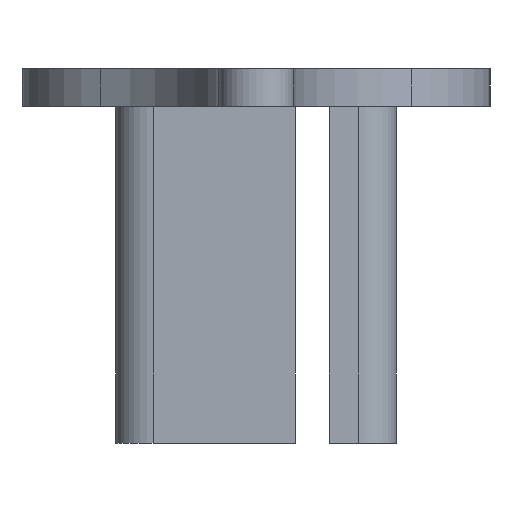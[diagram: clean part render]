
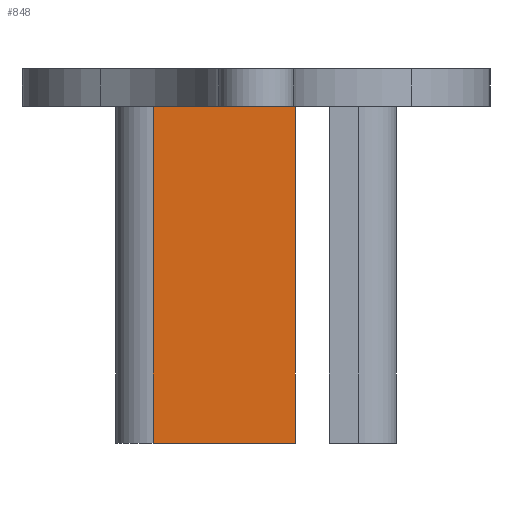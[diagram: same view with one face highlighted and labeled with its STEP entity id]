
A CAD part, left-side view. The second image highlights one B-rep face of the part: STEP entity #848.
In plain terms, the highlighted planar face has unit normal (-1, 0, 0).
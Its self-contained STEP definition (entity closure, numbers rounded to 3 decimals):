
#31=PLANE('',#919);
#72=FACE_OUTER_BOUND('',#117,.T.);
#117=EDGE_LOOP('',(#660,#661,#662,#663));
#196=LINE('',#1354,#289);
#197=LINE('',#1356,#290);
#198=LINE('',#1358,#291);
#199=LINE('',#1359,#292);
#289=VECTOR('',#1098,10.);
#290=VECTOR('',#1099,10.);
#291=VECTOR('',#1100,10.);
#292=VECTOR('',#1101,10.);
#417=VERTEX_POINT('',#1352);
#418=VERTEX_POINT('',#1353);
#419=VERTEX_POINT('',#1355);
#420=VERTEX_POINT('',#1357);
#518=EDGE_CURVE('',#417,#418,#196,.T.);
#519=EDGE_CURVE('',#419,#418,#197,.T.);
#520=EDGE_CURVE('',#419,#420,#198,.T.);
#521=EDGE_CURVE('',#417,#420,#199,.T.);
#660=ORIENTED_EDGE('',*,*,#518,.T.);
#661=ORIENTED_EDGE('',*,*,#519,.F.);
#662=ORIENTED_EDGE('',*,*,#520,.T.);
#663=ORIENTED_EDGE('',*,*,#521,.F.);
#848=ADVANCED_FACE('',(#72),#31,.T.);
#919=AXIS2_PLACEMENT_3D('',#1351,#1096,#1097);
#1096=DIRECTION('center_axis',(-1.,0.,0.));
#1097=DIRECTION('ref_axis',(0.,1.,0.));
#1098=DIRECTION('',(0.,0.,1.));
#1099=DIRECTION('',(0.,-1.,0.));
#1100=DIRECTION('',(0.,0.,-1.));
#1101=DIRECTION('',(0.,1.,0.));
#1351=CARTESIAN_POINT('Origin',(0.,1.,132.));
#1352=CARTESIAN_POINT('',(0.,2.7,122.));
#1353=CARTESIAN_POINT('',(0.,2.7,131.));
#1354=CARTESIAN_POINT('',(0.,2.7,127.));
#1355=CARTESIAN_POINT('',(0.,6.5,131.));
#1356=CARTESIAN_POINT('',(0.,1.875,131.));
#1357=CARTESIAN_POINT('',(0.,6.5,122.));
#1358=CARTESIAN_POINT('',(0.,6.5,132.));
#1359=CARTESIAN_POINT('',(0.,1.,122.));
